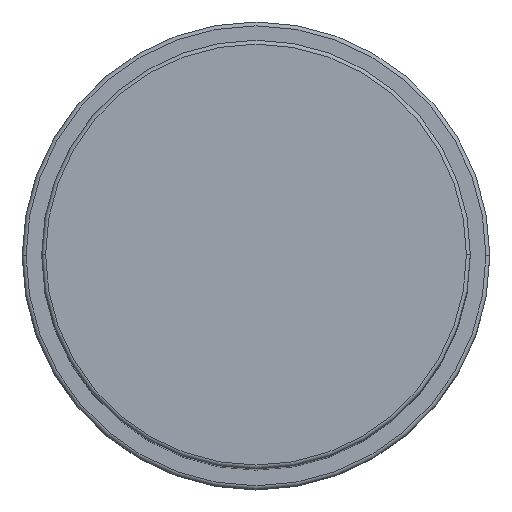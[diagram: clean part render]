
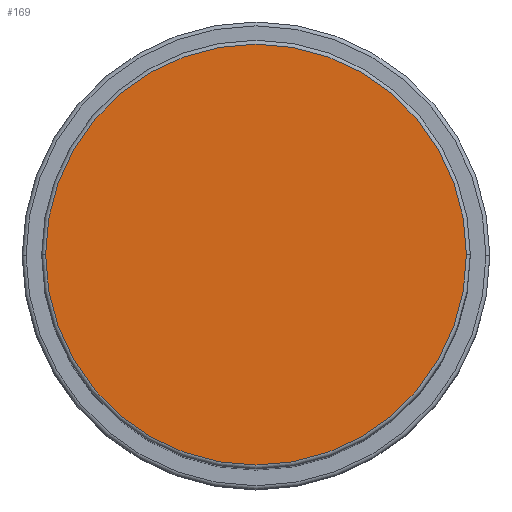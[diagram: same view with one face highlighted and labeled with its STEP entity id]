
A CAD part, top view. The second image highlights one B-rep face of the part: STEP entity #169.
In plain terms, the highlighted planar face has unit normal (0, 0, 1).
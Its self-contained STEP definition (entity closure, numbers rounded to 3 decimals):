
#169 = ADVANCED_FACE ( 'NONE', ( #4610 ), #2476, .T. ) ;
#1059 = VERTEX_POINT ( 'NONE', #2381 ) ;
#1190 = AXIS2_PLACEMENT_3D ( 'NONE', #3933, #3985, #1719 ) ;
#1349 = DIRECTION ( 'NONE',  ( 0., 0., 1. ) ) ;
#1434 = CIRCLE ( 'NONE', #3321, 27. ) ;
#1719 = DIRECTION ( 'NONE',  ( 1., 0., 0. ) ) ;
#1930 = DIRECTION ( 'NONE',  ( 0., 0., 1. ) ) ;
#2381 = CARTESIAN_POINT ( 'NONE',  ( 27., 0., 116. ) ) ;
#2476 = PLANE ( 'NONE',  #1190 ) ;
#2501 = CIRCLE ( 'NONE', #4703, 27. ) ;
#2596 = VERTEX_POINT ( 'NONE', #4109 ) ;
#2640 = CARTESIAN_POINT ( 'NONE',  ( 0., 0., 116. ) ) ;
#3321 = AXIS2_PLACEMENT_3D ( 'NONE', #3598, #1349, #4757 ) ;
#3598 = CARTESIAN_POINT ( 'NONE',  ( 0., 0., 116. ) ) ;
#3781 = EDGE_LOOP ( 'NONE', ( #3884, #3875 ) ) ;
#3875 = ORIENTED_EDGE ( 'NONE', *, *, #4241, .T. ) ;
#3884 = ORIENTED_EDGE ( 'NONE', *, *, #3915, .T. ) ;
#3915 = EDGE_CURVE ( 'NONE', #1059, #2596, #2501, .T. ) ;
#3933 = CARTESIAN_POINT ( 'NONE',  ( 0., 0., 116. ) ) ;
#3985 = DIRECTION ( 'NONE',  ( 0., 0., 1. ) ) ;
#4109 = CARTESIAN_POINT ( 'NONE',  ( -27., 0., 116. ) ) ;
#4241 = EDGE_CURVE ( 'NONE', #2596, #1059, #1434, .T. ) ;
#4567 = DIRECTION ( 'NONE',  ( 1., 0., 0. ) ) ;
#4610 = FACE_OUTER_BOUND ( 'NONE', #3781, .T. ) ;
#4703 = AXIS2_PLACEMENT_3D ( 'NONE', #2640, #1930, #4567 ) ;
#4757 = DIRECTION ( 'NONE',  ( 1., 0., 0. ) ) ;
